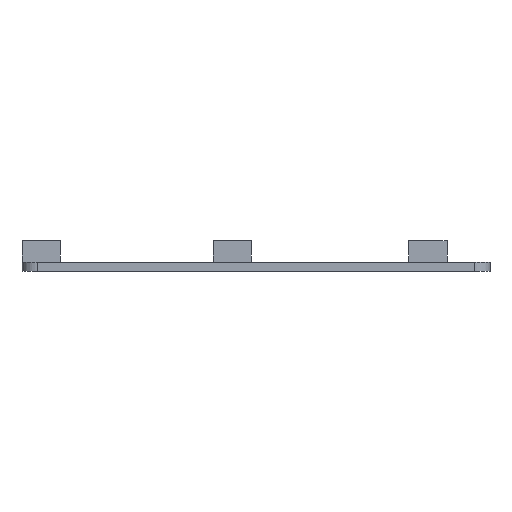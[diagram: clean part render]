
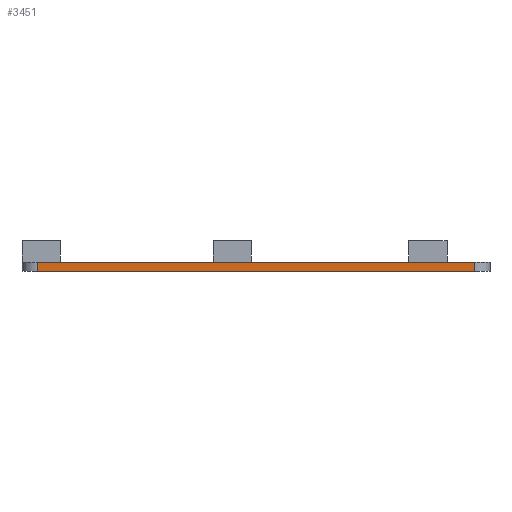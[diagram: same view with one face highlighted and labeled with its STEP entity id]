
A CAD part, left-side view. The second image highlights one B-rep face of the part: STEP entity #3451.
In plain terms, the highlighted planar face has unit normal (-1, 0, 0).
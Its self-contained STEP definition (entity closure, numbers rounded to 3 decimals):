
#246 = ORIENTED_EDGE ( 'NONE', *, *, #2317, .T. ) ;
#262 = VERTEX_POINT ( 'NONE', #3031 ) ;
#278 = CARTESIAN_POINT ( 'NONE',  ( -65.195, 28.571, 1.2 ) ) ;
#414 = LINE ( 'NONE', #920, #1809 ) ;
#498 = CARTESIAN_POINT ( 'NONE',  ( -65.195, 26.571, 0. ) ) ;
#770 = LINE ( 'NONE', #278, #1811 ) ;
#803 = FACE_OUTER_BOUND ( 'NONE', #1364, .T. ) ;
#818 = DIRECTION ( 'NONE',  ( 0., -1., 0. ) ) ;
#852 = VERTEX_POINT ( 'NONE', #927 ) ;
#920 = CARTESIAN_POINT ( 'NONE',  ( -65.195, 28.571, 0. ) ) ;
#927 = CARTESIAN_POINT ( 'NONE',  ( -65.195, -30.429, 1.2 ) ) ;
#993 = CARTESIAN_POINT ( 'NONE',  ( -65.195, 28.571, 1.2 ) ) ;
#1205 = LINE ( 'NONE', #2428, #1824 ) ;
#1364 = EDGE_LOOP ( 'NONE', ( #246, #3453, #3482, #2169 ) ) ;
#1501 = DIRECTION ( 'NONE',  ( 0., -1., 0. ) ) ;
#1809 = VECTOR ( 'NONE', #1501, 1000. ) ;
#1811 = VECTOR ( 'NONE', #818, 1000. ) ;
#1824 = VECTOR ( 'NONE', #3171, 1000. ) ;
#1831 = VERTEX_POINT ( 'NONE', #3605 ) ;
#1951 = VECTOR ( 'NONE', #2358, 1000. ) ;
#1964 = LINE ( 'NONE', #2207, #1951 ) ;
#1969 = DIRECTION ( 'NONE',  ( 1., 0., 0. ) ) ;
#2169 = ORIENTED_EDGE ( 'NONE', *, *, #2354, .T. ) ;
#2207 = CARTESIAN_POINT ( 'NONE',  ( -65.195, 26.571, 1.2 ) ) ;
#2276 = VERTEX_POINT ( 'NONE', #498 ) ;
#2317 = EDGE_CURVE ( 'NONE', #2276, #262, #414, .T. ) ;
#2337 = EDGE_CURVE ( 'NONE', #262, #852, #1205, .T. ) ;
#2354 = EDGE_CURVE ( 'NONE', #1831, #2276, #1964, .T. ) ;
#2358 = DIRECTION ( 'NONE',  ( 0., 0., -1. ) ) ;
#2428 = CARTESIAN_POINT ( 'NONE',  ( -65.195, -30.429, 1.2 ) ) ;
#2830 = DIRECTION ( 'NONE',  ( 0., 1., 0. ) ) ;
#2904 = EDGE_CURVE ( 'NONE', #1831, #852, #770, .T. ) ;
#2969 = PLANE ( 'NONE',  #3677 ) ;
#3031 = CARTESIAN_POINT ( 'NONE',  ( -65.195, -30.429, 0. ) ) ;
#3171 = DIRECTION ( 'NONE',  ( 0., 0., 1. ) ) ;
#3451 = ADVANCED_FACE ( 'NONE', ( #803 ), #2969, .F. ) ;
#3453 = ORIENTED_EDGE ( 'NONE', *, *, #2337, .T. ) ;
#3482 = ORIENTED_EDGE ( 'NONE', *, *, #2904, .F. ) ;
#3605 = CARTESIAN_POINT ( 'NONE',  ( -65.195, 26.571, 1.2 ) ) ;
#3677 = AXIS2_PLACEMENT_3D ( 'NONE', #993, #1969, #2830 ) ;
